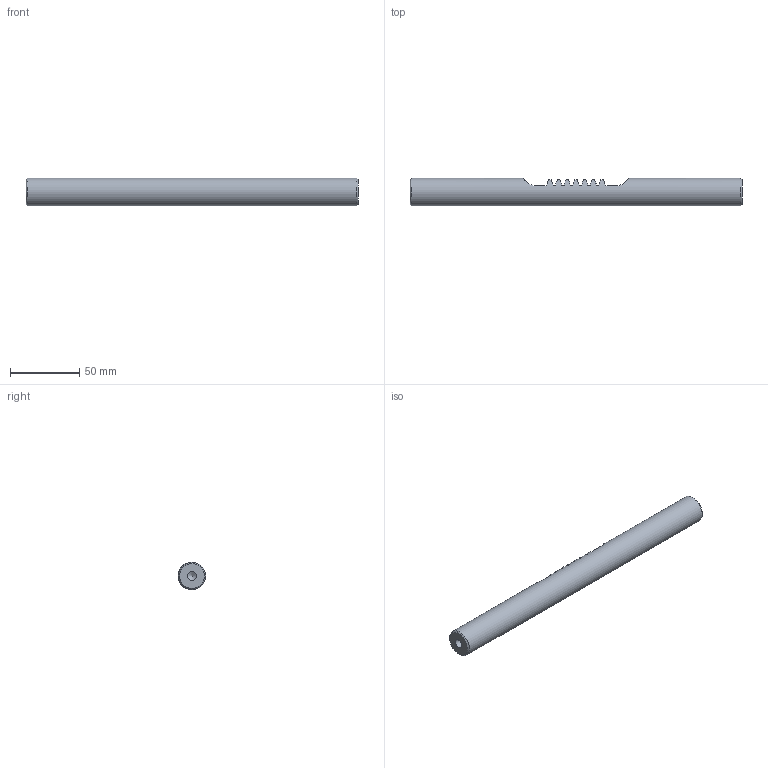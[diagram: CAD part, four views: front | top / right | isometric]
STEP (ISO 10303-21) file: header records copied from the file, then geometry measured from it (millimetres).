
FILE_DESCRIPTION(/* description */ (''),/* implementation_level */ '2;1');
FILE_NAME(/* name */ '',/* time_stamp */ '2024-07-29T13:47:11+09:00',/* author */ ('jhkim'),/* organization */ (''),/* preprocessor_version */ 'ST-DEVELOPER v20',/* originating_system */ 'Autodesk Inventor 2025',/* authorisation */ '');
FILE_SCHEMA (('AUTOMOTIVE_DESIGN { 1 0 10303 214 3 1 1 }'));
Length unit declared in the file: millimetre
Products named in the file (1): 랙
Bounding box: 240 x 20 x 20 mm (x, y, z)
Volume: 70730.7 mm3; surface area: 16856.8 mm2
Topology: 1 solids, 1 shells, 54 faces, 153 edges, 102 vertices
Faces by surface type: plane 31, cylinder 19, cone 4
Full cylindrical faces by diameter (mm): 6.647 x2, 20 x1
Entity records: 2028 total; most frequent: CARTESIAN_POINT 612, ORIENTED_EDGE 302, DIRECTION 267, EDGE_CURVE 151, VERTEX_POINT 102, AXIS2_PLACEMENT_3D 93, LINE 81, VECTOR 81
